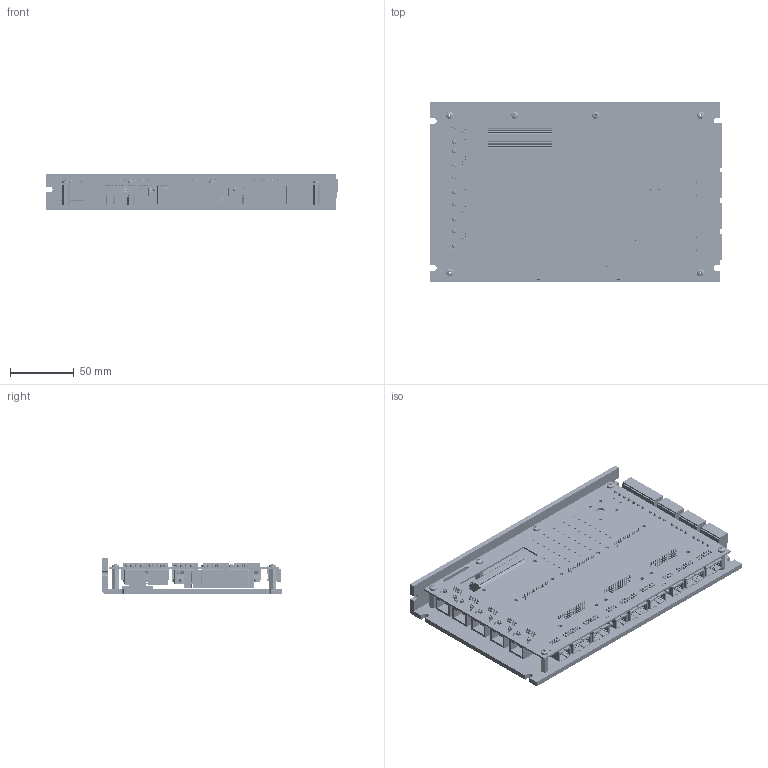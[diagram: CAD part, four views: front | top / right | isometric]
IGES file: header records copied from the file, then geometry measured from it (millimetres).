
Start section: SolidWorks IGES file using analytic representation for surfaces
Global section: file name: F:\ELMO\PRODUCTS\BRD\DRAWING\SOLID-PARTS\BRD-WHISTLE.IGS; native system: SolidWorks 2007; preprocessor: SolidWorks 2007; author: shlomo; date: 061224.121333; units: millimetre
Bounding box: 228.43 x 140 x 28 mm (x, y, z)
Surface area: 166028.4 mm2 (no closed solid volume)
Topology: 0 solids, 0 shells, 4266 faces, 30320 edges, 30319 vertices
Faces by surface type: bspline 3009, revolution 1257
